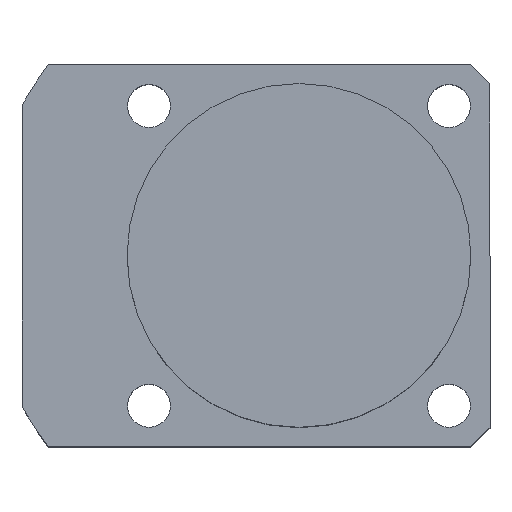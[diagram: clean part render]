
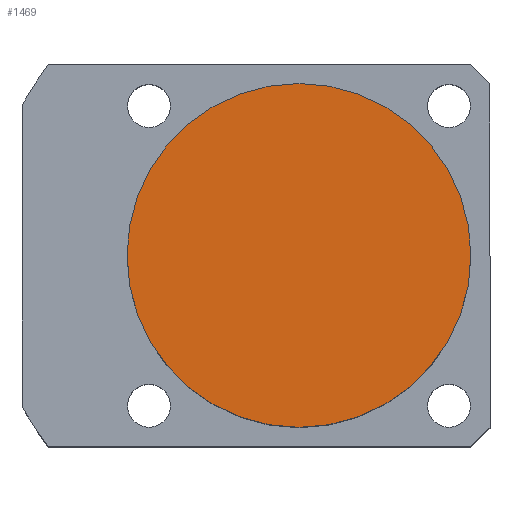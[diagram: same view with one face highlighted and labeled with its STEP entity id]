
A CAD part, top view. The second image highlights one B-rep face of the part: STEP entity #1469.
In plain terms, the highlighted planar face has unit normal (0, 0, 1).
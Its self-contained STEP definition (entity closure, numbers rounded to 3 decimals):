
#75 = EDGE_CURVE ( 'NONE', #1655, #748, #327, .T. ) ;
#244 = FACE_OUTER_BOUND ( 'NONE', #1139, .T. ) ;
#279 = ORIENTED_EDGE ( 'NONE', *, *, #734, .T. ) ;
#327 = CIRCLE ( 'NONE', #1323, 18. ) ;
#404 = AXIS2_PLACEMENT_3D ( 'NONE', #479, #474, #1578 ) ;
#418 = CARTESIAN_POINT ( 'NONE',  ( 18., 0., 33.5 ) ) ;
#437 = CIRCLE ( 'NONE', #744, 18. ) ;
#474 = DIRECTION ( 'NONE',  ( 0., 0., 1. ) ) ;
#477 = ORIENTED_EDGE ( 'NONE', *, *, #75, .T. ) ;
#479 = CARTESIAN_POINT ( 'NONE',  ( 0., 0., 33.5 ) ) ;
#543 = DIRECTION ( 'NONE',  ( 0., 0., 1. ) ) ;
#734 = EDGE_CURVE ( 'NONE', #748, #1655, #437, .T. ) ;
#744 = AXIS2_PLACEMENT_3D ( 'NONE', #1386, #543, #1656 ) ;
#748 = VERTEX_POINT ( 'NONE', #418 ) ;
#922 = DIRECTION ( 'NONE',  ( 0., 0., 1. ) ) ;
#1139 = EDGE_LOOP ( 'NONE', ( #477, #279 ) ) ;
#1214 = CARTESIAN_POINT ( 'NONE',  ( 0., 0., 33.5 ) ) ;
#1282 = PLANE ( 'NONE',  #404 ) ;
#1323 = AXIS2_PLACEMENT_3D ( 'NONE', #1214, #922, #1346 ) ;
#1346 = DIRECTION ( 'NONE',  ( 1., 0., 0. ) ) ;
#1347 = CARTESIAN_POINT ( 'NONE',  ( -18., 0., 33.5 ) ) ;
#1386 = CARTESIAN_POINT ( 'NONE',  ( 0., 0., 33.5 ) ) ;
#1469 = ADVANCED_FACE ( 'NONE', ( #244 ), #1282, .T. ) ;
#1578 = DIRECTION ( 'NONE',  ( 1., 0., 0. ) ) ;
#1655 = VERTEX_POINT ( 'NONE', #1347 ) ;
#1656 = DIRECTION ( 'NONE',  ( 1., 0., 0. ) ) ;
